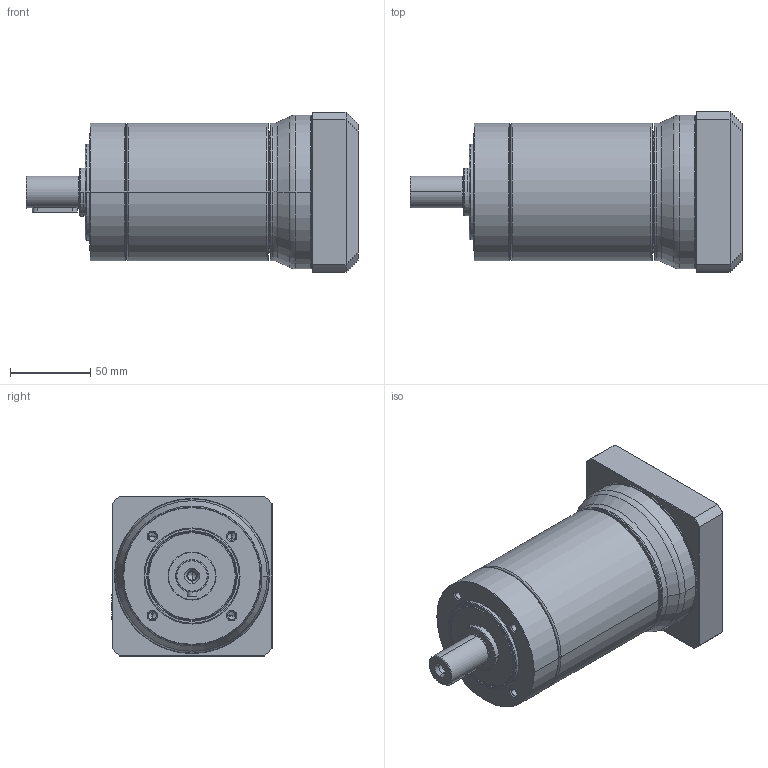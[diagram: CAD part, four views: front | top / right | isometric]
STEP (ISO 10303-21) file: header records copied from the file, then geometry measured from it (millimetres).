
FILE_DESCRIPTION((''),'2;1');
FILE_NAME('PG2-080_3ST_24-P0411500101_ASM','2016-04-15T',('d01943'),(''),'PRO/ENGINEER BY PARAMETRIC TECHNOLOGY CORPORATION, 2008410','PRO/ENGINEER BY PARAMETRIC TECHNOLOGY CORPORATION, 2008410','');
FILE_SCHEMA(('CONFIG_CONTROL_DESIGN'));
Length unit declared in the file: millimetre
Products named in the file (9): P1325310001; P0273300001; P1324300201; P0350301103; P0411500101; P0503500008; P0941302001; P1702500001; PG2-080_3ST_24-P0411500101_ASM
Assembly tree (8 placements, depth 2):
  PG2-080_3ST_24-P0411500101_ASM
    P1325310001
    P0273300001
    P1324300201
    P0350301103
    P0411500101
    P0503500008
    P0941302001
    P1702500001
Bounding box: 207.5 x 100 x 100 mm (x, y, z)
Volume: 700013.9 mm3; surface area: 167968.3 mm2
Topology: 8 solids, 9 shells, 471 faces, 1037 edges, 597 vertices
Faces by surface type: cone 142, cylinder 137, torus 96, plane 80, bspline 16
Entity records: 17537 total; most frequent: CARTESIAN_POINT 6938, DIRECTION 2415, ORIENTED_EDGE 2006, AXIS2_PLACEMENT_3D 1035, EDGE_CURVE 1003, VERTEX_POINT 597, CIRCLE 563, EDGE_LOOP 536
